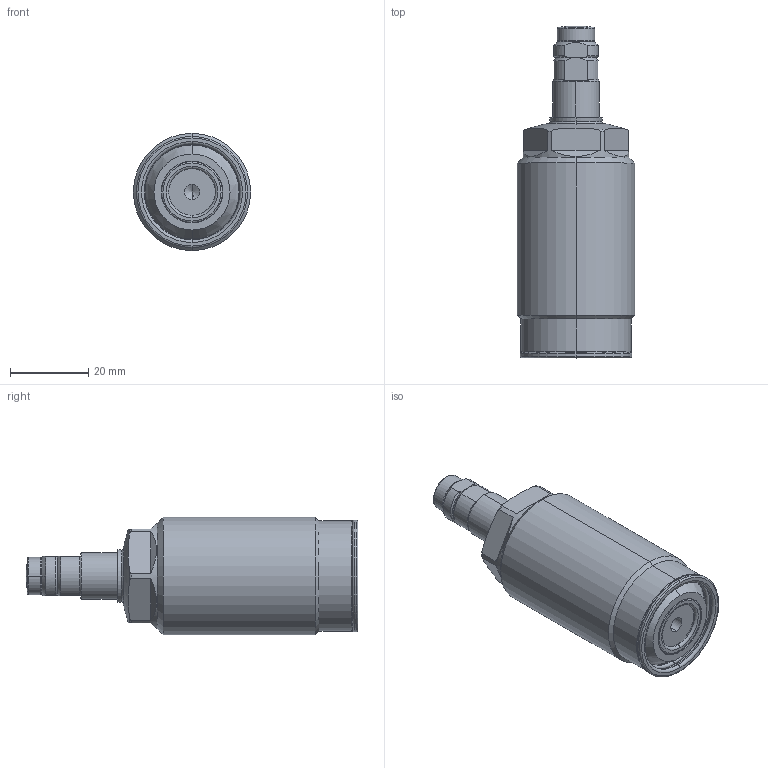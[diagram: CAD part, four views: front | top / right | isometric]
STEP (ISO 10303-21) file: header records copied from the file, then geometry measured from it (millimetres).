
FILE_DESCRIPTION(/* description */ (''),/* implementation_level */ '2;1');
FILE_NAME(/* name */ 'TSS30-M.stp',/* time_stamp */ '2026-02-04T12:44:42+08:00',/* author */ (''),/* organization */ (''),/* preprocessor_version */ 'ST-DEVELOPER v16.7',/* originating_system */ 'SIEMENS PLM Software NX 12.0',/* authorisation */ '');
FILE_SCHEMA (('AUTOMOTIVE_DESIGN { 1 0 10303 214 3 1 1 1 }'));
Length unit declared in the file: millimetre
Products named in the file (10): XLD-M8SP_pad156; XLD-M8SP_pin157; XLD-M8SP_contactbolt158; XLD-M8_Oring159; TSS30-03; TSS30-M03; TSS30-M01; XLDM8_-M163; TSS30-M02; TSS30-M_stp
Assembly tree (10 placements, depth 3):
  TSS30-M_stp
    TSS30-M01
    TSS30-M02
      XLD-M8_Oring159
    TSS30-M03
    TSS30-03
    XLDM8_-M163
      XLD-M8SP_contactbolt158
      XLD-M8_Oring159
      XLD-M8SP_pin157
      XLD-M8SP_pad156
Bounding box: 30 x 85 x 30 mm (x, y, z)
Volume: 40174.9 mm3; surface area: 10569.9 mm2
Topology: 8 solids, 8 shells, 225 faces, 502 edges, 300 vertices
Faces by surface type: torus 71, cylinder 61, plane 46, cone 41, sphere 6
Entity records: 6650 total; most frequent: CARTESIAN_POINT 1612, DIRECTION 1128, ORIENTED_EDGE 944, AXIS2_PLACEMENT_3D 498, EDGE_CURVE 472, VERTEX_POINT 284, CIRCLE 276, EDGE_LOOP 232
